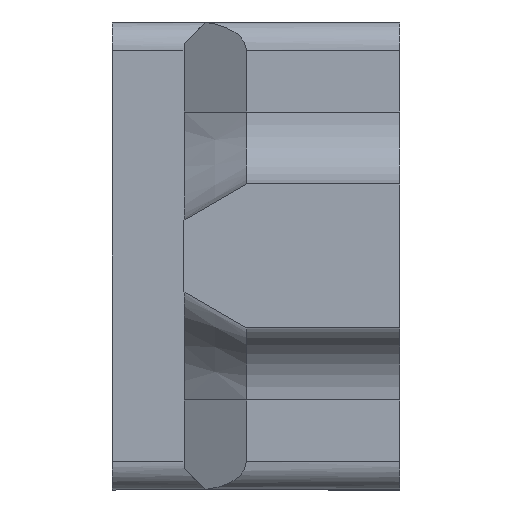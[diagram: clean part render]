
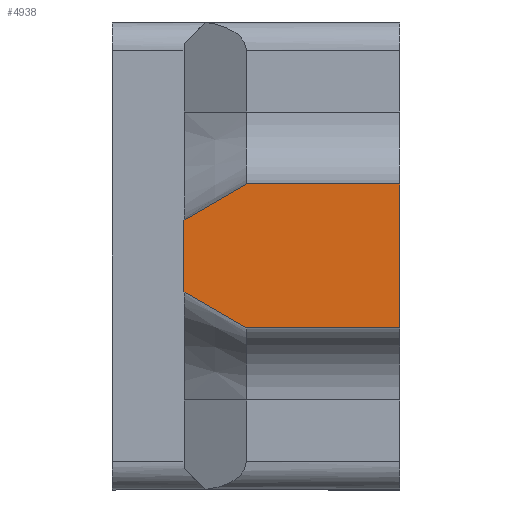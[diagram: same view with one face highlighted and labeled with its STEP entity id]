
A CAD part, left-side view. The second image highlights one B-rep face of the part: STEP entity #4938.
In plain terms, the highlighted planar face has unit normal (-1, 0, 0).
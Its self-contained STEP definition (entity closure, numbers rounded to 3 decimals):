
#30 = EDGE_CURVE ( 'NONE', #3673, #2352, #2040, .T. ) ;
#143 = VERTEX_POINT ( 'NONE', #157 ) ;
#157 = CARTESIAN_POINT ( 'NONE',  ( -14., 3.153, 5. ) ) ;
#277 = CARTESIAN_POINT ( 'NONE',  ( -14., 7.5, 2.49 ) ) ;
#487 = LINE ( 'NONE', #5752, #2537 ) ;
#554 = CARTESIAN_POINT ( 'NONE',  ( -14., -7.5, -5. ) ) ;
#660 = CARTESIAN_POINT ( 'NONE',  ( -14., 7.5, 2.49 ) ) ;
#1065 = DIRECTION ( 'NONE',  ( 0., 0., -1. ) ) ;
#1075 = DIRECTION ( 'NONE',  ( 0., 0., -1. ) ) ;
#1123 = EDGE_CURVE ( 'NONE', #1874, #2352, #3749, .T. ) ;
#1333 = LINE ( 'NONE', #2846, #5897 ) ;
#1520 = EDGE_CURVE ( 'NONE', #3533, #3475, #487, .T. ) ;
#1573 = ORIENTED_EDGE ( 'NONE', *, *, #1520, .T. ) ;
#1610 = DIRECTION ( 'NONE',  ( 0., -0.866, 0.5 ) ) ;
#1675 = ORIENTED_EDGE ( 'NONE', *, *, #6004, .F. ) ;
#1687 = DIRECTION ( 'NONE',  ( 0., -1., 0. ) ) ;
#1721 = FACE_OUTER_BOUND ( 'NONE', #5820, .T. ) ;
#1773 = VECTOR ( 'NONE', #1687, 1000. ) ;
#1874 = VERTEX_POINT ( 'NONE', #2124 ) ;
#2040 = LINE ( 'NONE', #4601, #3265 ) ;
#2124 = CARTESIAN_POINT ( 'NONE',  ( -14., -7.5, 5. ) ) ;
#2206 = LINE ( 'NONE', #4287, #1773 ) ;
#2294 = CARTESIAN_POINT ( 'NONE',  ( -14., 7.5, -2.49 ) ) ;
#2352 = VERTEX_POINT ( 'NONE', #554 ) ;
#2537 = VECTOR ( 'NONE', #1065, 1000. ) ;
#2559 = CARTESIAN_POINT ( 'NONE',  ( -14., 3.153, -5. ) ) ;
#2728 = ORIENTED_EDGE ( 'NONE', *, *, #30, .T. ) ;
#2846 = CARTESIAN_POINT ( 'NONE',  ( -14., 7.5, -2.49 ) ) ;
#3198 = PLANE ( 'NONE',  #4685 ) ;
#3265 = VECTOR ( 'NONE', #4674, 1000. ) ;
#3287 = EDGE_CURVE ( 'NONE', #143, #1874, #2206, .T. ) ;
#3391 = VECTOR ( 'NONE', #1610, 1000. ) ;
#3475 = VERTEX_POINT ( 'NONE', #2294 ) ;
#3533 = VERTEX_POINT ( 'NONE', #277 ) ;
#3673 = VERTEX_POINT ( 'NONE', #2559 ) ;
#3680 = ORIENTED_EDGE ( 'NONE', *, *, #3287, .F. ) ;
#3684 = DIRECTION ( 'NONE',  ( 0., 0., -1. ) ) ;
#3749 = LINE ( 'NONE', #4180, #6186 ) ;
#3848 = DIRECTION ( 'NONE',  ( 0., 0.866, 0.5 ) ) ;
#4180 = CARTESIAN_POINT ( 'NONE',  ( -14., -7.5, 5. ) ) ;
#4211 = ORIENTED_EDGE ( 'NONE', *, *, #1123, .F. ) ;
#4287 = CARTESIAN_POINT ( 'NONE',  ( -14., -7.5, 5. ) ) ;
#4601 = CARTESIAN_POINT ( 'NONE',  ( -14., -7.5, -5. ) ) ;
#4674 = DIRECTION ( 'NONE',  ( 0., -1., 0. ) ) ;
#4685 = AXIS2_PLACEMENT_3D ( 'NONE', #5764, #5353, #1075 ) ;
#4938 = ADVANCED_FACE ( 'NONE', ( #1721 ), #3198, .F. ) ;
#5353 = DIRECTION ( 'NONE',  ( 1., 0., 0. ) ) ;
#5752 = CARTESIAN_POINT ( 'NONE',  ( -14., 7.5, 5. ) ) ;
#5764 = CARTESIAN_POINT ( 'NONE',  ( -14., -7.5, 5. ) ) ;
#5820 = EDGE_LOOP ( 'NONE', ( #1573, #6269, #2728, #4211, #3680, #1675 ) ) ;
#5897 = VECTOR ( 'NONE', #3848, 1000. ) ;
#6004 = EDGE_CURVE ( 'NONE', #3533, #143, #6313, .T. ) ;
#6176 = EDGE_CURVE ( 'NONE', #3673, #3475, #1333, .T. ) ;
#6186 = VECTOR ( 'NONE', #3684, 1000. ) ;
#6269 = ORIENTED_EDGE ( 'NONE', *, *, #6176, .F. ) ;
#6313 = LINE ( 'NONE', #660, #3391 ) ;
